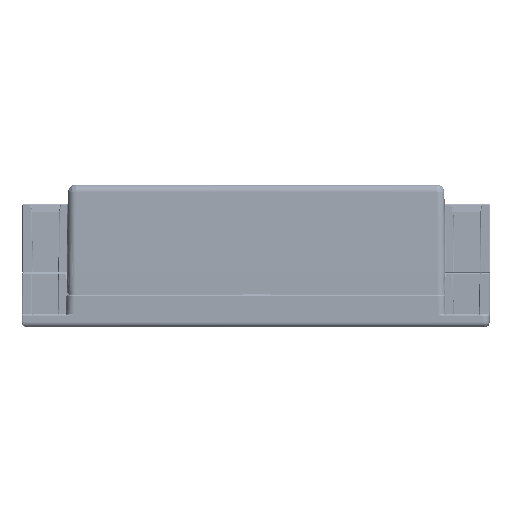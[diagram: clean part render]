
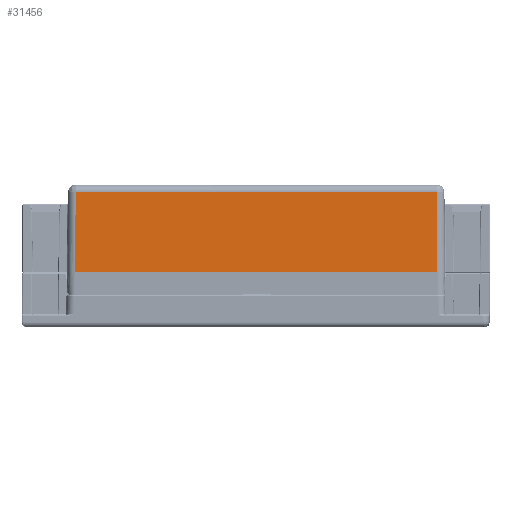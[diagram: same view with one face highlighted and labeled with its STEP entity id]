
A CAD part, top view. The second image highlights one B-rep face of the part: STEP entity #31456.
In plain terms, the highlighted planar face has unit normal (0, 0.009, 1).
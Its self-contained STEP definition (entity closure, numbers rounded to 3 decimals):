
#1580 = CARTESIAN_POINT ( 'NONE',  ( 87.585, 16.614, 21.355 ) ) ;
#2378 = DIRECTION ( 'NONE',  ( 0., 0.009, 1. ) ) ;
#6123 = DIRECTION ( 'NONE',  ( 1., 0., 0. ) ) ;
#17690 = LINE ( 'NONE', #95227, #44144 ) ;
#22019 = VECTOR ( 'NONE', #228643, 1000. ) ;
#25203 = LINE ( 'NONE', #119396, #185328 ) ;
#28455 = EDGE_CURVE ( 'NONE', #168468, #243981, #25203, .T. ) ;
#31456 = ADVANCED_FACE ( 'NONE', ( #192013 ), #249248, .T. ) ;
#44144 = VECTOR ( 'NONE', #142221, 1000. ) ;
#50572 = EDGE_CURVE ( 'NONE', #60541, #139151, #78409, .T. ) ;
#55696 = ORIENTED_EDGE ( 'NONE', *, *, #177051, .T. ) ;
#60541 = VERTEX_POINT ( 'NONE', #205089 ) ;
#64808 = CARTESIAN_POINT ( 'NONE',  ( 12.733, 16.614, 21.355 ) ) ;
#76094 = EDGE_CURVE ( 'NONE', #243981, #139151, #17690, .T. ) ;
#78409 = LINE ( 'NONE', #213348, #22019 ) ;
#84643 = AXIS2_PLACEMENT_3D ( 'NONE', #133481, #2378, #138513 ) ;
#95227 = CARTESIAN_POINT ( 'NONE',  ( 87.73, 0., 21.5 ) ) ;
#102979 = DIRECTION ( 'NONE',  ( -0.009, -1., 0.009 ) ) ;
#119396 = CARTESIAN_POINT ( 'NONE',  ( 89.388, 0., 21.5 ) ) ;
#133481 = CARTESIAN_POINT ( 'NONE',  ( 89.388, 0., 21.5 ) ) ;
#138513 = DIRECTION ( 'NONE',  ( 0., -1., 0.009 ) ) ;
#139151 = VERTEX_POINT ( 'NONE', #1580 ) ;
#141197 = LINE ( 'NONE', #64808, #229959 ) ;
#142221 = DIRECTION ( 'NONE',  ( -0.009, 1., -0.009 ) ) ;
#143941 = ORIENTED_EDGE ( 'NONE', *, *, #28455, .T. ) ;
#168468 = VERTEX_POINT ( 'NONE', #239198 ) ;
#177051 = EDGE_CURVE ( 'NONE', #60541, #168468, #141197, .T. ) ;
#182319 = ORIENTED_EDGE ( 'NONE', *, *, #50572, .F. ) ;
#185328 = VECTOR ( 'NONE', #6123, 1000. ) ;
#192013 = FACE_OUTER_BOUND ( 'NONE', #224176, .T. ) ;
#205089 = CARTESIAN_POINT ( 'NONE',  ( 12.733, 16.614, 21.355 ) ) ;
#213348 = CARTESIAN_POINT ( 'NONE',  ( 105.2, 16.614, 21.355 ) ) ;
#224176 = EDGE_LOOP ( 'NONE', ( #55696, #143941, #237404, #182319 ) ) ;
#228643 = DIRECTION ( 'NONE',  ( 1., 0., 0. ) ) ;
#229959 = VECTOR ( 'NONE', #102979, 1000. ) ;
#237404 = ORIENTED_EDGE ( 'NONE', *, *, #76094, .T. ) ;
#239198 = CARTESIAN_POINT ( 'NONE',  ( 12.588, 0., 21.5 ) ) ;
#243981 = VERTEX_POINT ( 'NONE', #246711 ) ;
#246711 = CARTESIAN_POINT ( 'NONE',  ( 87.73, 0., 21.5 ) ) ;
#249248 = PLANE ( 'NONE',  #84643 ) ;
